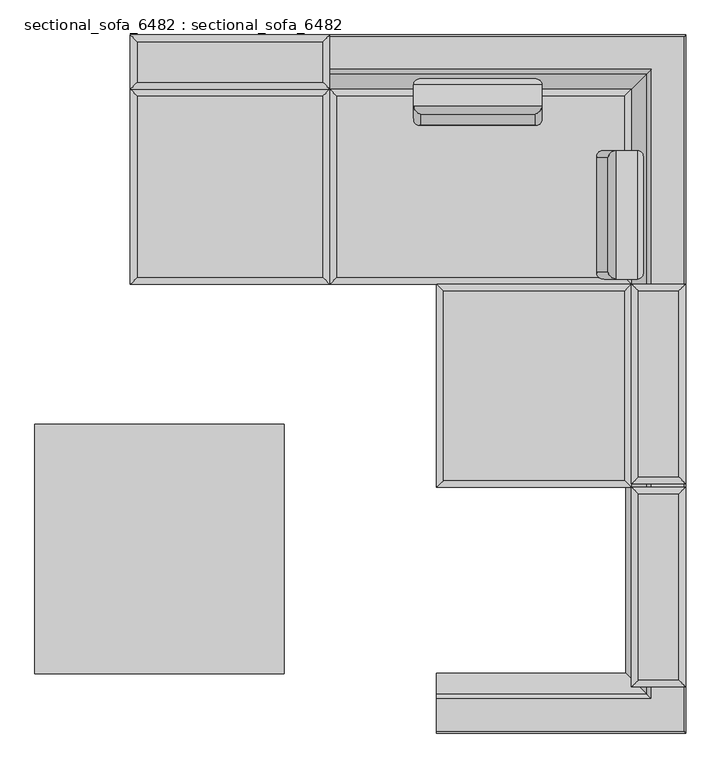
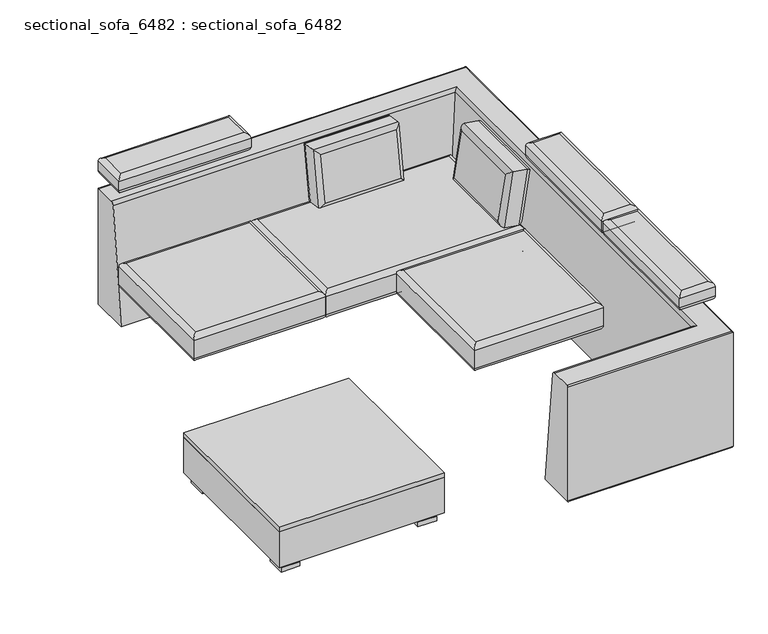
"""IFC4 building model written with IfcOpenShell, lengths in millimetres: furniture geometry, sectional_sofa_6482 : sectional_sofa_6482."""

from ifc_helpers import new_model, si_unit, frame, origin, place, context, project, spatial, polyline, circle_curve, ellipse_curve, outline, extrude, faceted_brep, source, transform, mapped, element, save
from ifc_brep_helpers import plane_surface, cylinder_surface, advanced_brep


def sectional_sofa_6482_sectional_sofa_6482_260eafee(model_context):
    return source(origin(), model_context, "Body", "SolidModel", [
        faceted_brep([(-926.5924005, -223.6520518, 25.4), (-926.5924005, -122.0520518, 25.4), (-1028.1924005, -122.0520518, 25.4), (-1028.1924005, -223.6520518, 25.4), (-951.9924005, -147.4520518, 25.4), (-951.9924005, -198.2520518, 25.4), (-1002.7924005, -198.2520518, 25.4), (-1002.7924005, -147.4520518, 25.4), (-926.5924005, -223.6520518, 0.0), (-1028.1924005, -223.6520518, 0.0), (-1028.1924005, -122.0520518, 0.0), (-926.5924005, -122.0520518, 0.0), (-951.9924005, -198.2520518, 50.8), (-951.9924005, -147.4520518, 50.8), (-1002.7924005, -147.4520518, 50.8), (-1002.7924005, -198.2520518, 50.8)], [[[0, 1, 2, 3], [4, 5, 6, 7]], [[8, 9, 10, 11]], [[1, 0, 8, 11]], [[2, 1, 11, 10]], [[3, 2, 10, 9]], [[0, 3, 9, 8]], [[12, 13, 14, 15]], [[13, 12, 5, 4]], [[14, 13, 4, 7]], [[15, 14, 7, 6]], [[12, 15, 6, 5]]]),
        faceted_brep([(-291.5924005, -223.6520518, 25.4), (-189.9924005, -223.6520518, 25.4), (-189.9924005, -122.0520518, 25.4), (-291.5924005, -122.0520518, 25.4), (-215.3924005, -198.2520518, 25.4), (-266.1924005, -198.2520518, 25.4), (-266.1924005, -147.4520518, 25.4), (-215.3924005, -147.4520518, 25.4), (-291.5924005, -223.6520518, 0.0), (-291.5924005, -122.0520518, 0.0), (-189.9924005, -122.0520518, 0.0), (-189.9924005, -223.6520518, 0.0), (-266.1924005, -198.2520518, 50.8), (-215.3924005, -198.2520518, 50.8), (-215.3924005, -147.4520518, 50.8), (-266.1924005, -147.4520518, 50.8)], [[[0, 1, 2, 3], [4, 5, 6, 7]], [[8, 9, 10, 11]], [[1, 0, 8, 11]], [[2, 1, 11, 10]], [[3, 2, 10, 9]], [[0, 3, 9, 8]], [[12, 13, 14, 15]], [[13, 12, 5, 4]], [[14, 13, 4, 7]], [[15, 14, 7, 6]], [[12, 15, 6, 5]]]),
        faceted_brep([(-291.5924005, -960.2520518, 25.4), (-189.9924005, -960.2520518, 25.4), (-189.9924005, -858.6520518, 25.4), (-291.5924005, -858.6520518, 25.4), (-215.3924005, -934.8520518, 25.4), (-266.1924005, -934.8520518, 25.4), (-266.1924005, -884.0520518, 25.4), (-215.3924005, -884.0520518, 25.4), (-291.5924005, -960.2520518, 0.0), (-291.5924005, -858.6520518, 0.0), (-189.9924005, -858.6520518, 0.0), (-189.9924005, -960.2520518, 0.0), (-266.1924005, -934.8520518, 50.8), (-215.3924005, -934.8520518, 50.8), (-215.3924005, -884.0520518, 50.8), (-266.1924005, -884.0520518, 50.8)], [[[0, 1, 2, 3], [4, 5, 6, 7]], [[8, 9, 10, 11]], [[1, 0, 8, 11]], [[2, 1, 11, 10]], [[3, 2, 10, 9]], [[0, 3, 9, 8]], [[12, 13, 14, 15]], [[13, 12, 5, 4]], [[14, 13, 4, 7]], [[15, 14, 7, 6]], [[12, 15, 6, 5]]]),
        faceted_brep([(-926.5924005, -960.2520518, 25.4), (-926.5924005, -858.6520518, 25.4), (-1028.1924005, -858.6520518, 25.4), (-1028.1924005, -960.2520518, 25.4), (-951.9924005, -884.0520518, 25.4), (-951.9924005, -934.8520518, 25.4), (-1002.7924005, -934.8520518, 25.4), (-1002.7924005, -884.0520518, 25.4), (-926.5924005, -960.2520518, 0.0), (-1028.1924005, -960.2520518, 0.0), (-1028.1924005, -858.6520518, 0.0), (-926.5924005, -858.6520518, 0.0), (-951.9924005, -934.8520518, 50.8), (-951.9924005, -884.0520518, 50.8), (-1002.7924005, -884.0520518, 50.8), (-1002.7924005, -934.8520518, 50.8)], [[[0, 1, 2, 3], [4, 5, 6, 7]], [[8, 9, 10, 11]], [[1, 0, 8, 11]], [[2, 1, 11, 10]], [[3, 2, 10, 9]], [[0, 3, 9, 8]], [[12, 13, 14, 15]], [[13, 12, 5, 4]], [[14, 13, 4, 7]], [[15, 14, 7, 6]], [[12, 15, 6, 5]]]),
        advanced_brep(
        [(972.5408994, 421.3757369, 422.7530414), (1047.802751, 421.3757369, 410.8327352), (1095.4839759, 421.3757369, 711.8801414), (1020.2221244, 421.3757369, 723.8004476), (1020.2221244, 878.5757369, 723.8004476), (1095.4839759, 878.5757369, 711.8801414), (1047.802751, 878.5757369, 410.8327352), (972.5408994, 878.5757369, 422.7530414), (1076.8634702, 853.1757369, 431.9465836), (1116.5978244, 853.1757369, 682.8194221), (1116.5978244, 446.7757369, 682.8194221), (1076.8634702, 446.7757369, 431.9465836), (991.1614051, 853.1757369, 702.6865992), (951.427051, 853.1757369, 451.8137607), (951.427051, 446.7757369, 451.8137607), (991.1614051, 446.7757369, 702.6865992)],
        [
            (0, 1),
            (1, 2),
            (2, 3),
            (3, 0),
            (4, 5),
            (5, 6),
            (6, 7),
            (7, 4),
            (0, 7),
            (6, 1),
            (8, 9),
            (9, 10),
            (10, 11),
            (11, 8),
            (2, 5),
            (4, 3),
            (12, 13),
            (13, 14),
            (14, 15),
            (15, 12),
            (7, 13, ellipse_curve(frame((976.5143348, 853.1757369, 447.8403253), z_axis=(0.11061587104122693, 0.7071067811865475, 0.698401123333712), x_axis=(-0.11061587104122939, 0.7071067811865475, -0.6984011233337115)), 35.9210245, 25.4)),
            (12, 4, ellipse_curve(frame((1016.248689, 853.1757369, 698.7131638), z_axis=(-0.11061587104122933, 0.7071067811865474, -0.6984011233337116), x_axis=(-0.11061587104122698, -0.7071067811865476, -0.6984011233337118)), 35.9210245, 25.4)),
            (8, 6, ellipse_curve(frame((1051.7761864, 853.1757369, 435.920019), z_axis=(0.11061587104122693, 0.7071067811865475, 0.698401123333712), x_axis=(-0.11061587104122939, 0.7071067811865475, -0.6984011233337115)), 35.9210245, 25.4)),
            (5, 9, ellipse_curve(frame((1091.5105405, 853.1757369, 686.7928575), z_axis=(-0.11061587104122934, 0.7071067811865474, -0.6984011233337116), x_axis=(-0.11061587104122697, -0.7071067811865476, -0.6984011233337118)), 35.9210245, 25.4)),
            (0, 14, ellipse_curve(frame((976.5143348, 446.7757369, 447.8403253), z_axis=(-0.11061587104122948, 0.7071067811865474, -0.6984011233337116), x_axis=(-0.11061587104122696, -0.7071067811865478, -0.6984011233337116)), 35.9210245, 25.4)),
            (11, 1, ellipse_curve(frame((1051.7761864, 446.7757369, 435.920019), z_axis=(-0.11061587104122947, 0.7071067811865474, -0.6984011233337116), x_axis=(-0.11061587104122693, -0.7071067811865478, -0.6984011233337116)), 35.9210245, 25.4)),
            (3, 15, ellipse_curve(frame((1016.248689, 446.7757369, 698.7131638), z_axis=(-0.11061587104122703, -0.7071067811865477, -0.6984011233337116), x_axis=(0.11061587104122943, -0.7071067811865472, 0.6984011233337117)), 35.9210245, 25.4)),
            (10, 2, ellipse_curve(frame((1091.5105405, 446.7757369, 686.7928575), z_axis=(-0.11061587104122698, -0.7071067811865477, -0.6984011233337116), x_axis=(0.11061587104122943, -0.7071067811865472, 0.6984011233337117)), 35.9210245, 25.4)),
        ],
        [
            plane_surface(frame((1059.7203148, 421.3757369, 248.4503234), z_axis=(0.0, -1.0, 0.0), x_axis=(0.0, 0.0, 1.0))),
            plane_surface(frame((1059.7203148, 878.5757369, 248.4503234), z_axis=(0.0, 1.0, 0.0), x_axis=(0.0, 0.0, 1.0))),
            plane_surface(frame((947.4536156, 421.3757369, 426.7264768), z_axis=(-0.15643446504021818, 0.0, -0.9876883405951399), x_axis=(0.0, 1.0, 0.0))),
            plane_surface(frame((1072.8900348, 421.3757369, 406.8592998), z_axis=(0.9876883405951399, 0.0, -0.15643446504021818), x_axis=(0.0, 1.0, 0.0))),
            plane_surface(frame((1120.5712598, 421.3757369, 707.906706), z_axis=(0.15643446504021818, 0.0, 0.9876883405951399), x_axis=(0.0, 1.0, 0.0))),
            plane_surface(frame((995.1348405, 421.3757369, 727.773883), z_axis=(-0.9876883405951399, 0.0, 0.15643446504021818), x_axis=(0.0, 1.0, 0.0))),
            cylinder_surface(frame((1020.2221244, 853.1757369, 723.8004476), z_axis=(-0.15643446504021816, 0.0, -0.9876883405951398), x_axis=(0.0, -1.0, 0.0)), 25.4),
            cylinder_surface(frame((1095.4839759, 853.1757369, 711.8801414), z_axis=(-0.15643446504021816, 0.0, -0.9876883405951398), x_axis=(0.0, -1.0, 0.0)), 25.4),
            cylinder_surface(frame((976.5143348, 878.5757369, 447.8403253), z_axis=(0.0, -1.0000000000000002, 0.0), x_axis=(0.15643446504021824, 0.0, 0.9876883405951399)), 25.4),
            cylinder_surface(frame((1051.7761864, 878.5757369, 435.920019), z_axis=(0.0, -1.0000000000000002, 0.0), x_axis=(0.15643446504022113, 0.0, 0.9876883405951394)), 25.4),
            cylinder_surface(frame((972.5408994, 446.7757369, 422.7530414), z_axis=(0.15643446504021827, 0.0, 0.9876883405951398), x_axis=(0.0, 1.0, 0.0)), 25.4),
            cylinder_surface(frame((1047.802751, 446.7757369, 410.8327352), z_axis=(0.15643446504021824, 0.0, 0.9876883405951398), x_axis=(0.0, 1.0, 0.0)), 25.4),
            cylinder_surface(frame((1016.248689, 421.3757369, 698.7131638), z_axis=(0.0, 1.0000000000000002, 0.0), x_axis=(-0.15643446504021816, 0.0, -0.9876883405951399)), 25.4),
            cylinder_surface(frame((1091.5105405, 421.3757369, 686.7928575), z_axis=(0.0, 1.0000000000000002, 0.0), x_axis=(-0.1564344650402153, 0.0, -0.9876883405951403)), 25.4),
        ],
        [
            (0, [[1, 2, 3, 4]]),
            (1, [[5, 6, 7, 8]]),
            (2, [[-1, 9, -7, 10]]),
            (3, [[11, 12, 13, 14]]),
            (4, [[-3, 15, -5, 16]]),
            (5, [[17, 18, 19, 20]]),
            (6, [[21, -17, 22, -8]]),
            (7, [[23, -6, 24, -11]]),
            (8, [[-21, -9, 25, -18]]),
            (9, [[-23, -14, 26, -10]]),
            (10, [[-25, -4, 27, -19]]),
            (11, [[-26, -13, 28, -2]]),
            (12, [[-22, -20, -27, -16]]),
            (13, [[-24, -15, -28, -12]]),
        ],
    ),
        advanced_brep(
        [(754.9501866, 990.6789418, 428.302718), (754.9501866, 1065.9407934, 416.3824117), (754.9501866, 1113.6220183, 717.429818), (754.9501866, 1038.3601668, 729.3501242), (297.7501866, 1038.3601668, 729.3501242), (297.7501866, 1113.6220183, 717.429818), (297.7501866, 1065.9407934, 416.3824117), (297.7501866, 990.6789418, 428.302718), (323.1501866, 1095.0015126, 437.4962602), (323.1501866, 1134.7358668, 688.3690987), (729.5501866, 1134.7358668, 688.3690987), (729.5501866, 1095.0015126, 437.4962602), (323.1501866, 1009.2994475, 708.2362758), (323.1501866, 969.5650934, 457.3634372), (729.5501866, 969.5650934, 457.3634372), (729.5501866, 1009.2994475, 708.2362758)],
        [
            (0, 1),
            (1, 2),
            (2, 3),
            (3, 0),
            (4, 5),
            (5, 6),
            (6, 7),
            (7, 4),
            (0, 7),
            (6, 1),
            (8, 9),
            (9, 10),
            (10, 11),
            (11, 8),
            (2, 5),
            (4, 3),
            (12, 13),
            (13, 14),
            (14, 15),
            (15, 12),
            (7, 13, ellipse_curve(frame((323.1501866, 994.6523772, 453.3900018), z_axis=(-0.7071067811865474, 0.1106158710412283, 0.6984011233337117), x_axis=(-0.7071067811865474, -0.11061587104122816, -0.6984011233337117)), 35.9210245, 25.4)),
            (12, 4, ellipse_curve(frame((323.1501866, 1034.3867314, 704.2628403), z_axis=(-0.7071067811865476, -0.11061587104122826, -0.6984011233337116), x_axis=(0.7071067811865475, -0.11061587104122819, -0.6984011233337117)), 35.9210245, 25.4)),
            (8, 6, ellipse_curve(frame((323.1501866, 1069.9142288, 441.4696956), z_axis=(-0.7071067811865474, 0.11061587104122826, 0.6984011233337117), x_axis=(-0.7071067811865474, -0.11061587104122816, -0.6984011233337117)), 35.9210245, 25.4)),
            (5, 9, ellipse_curve(frame((323.1501866, 1109.6485829, 692.3425341), z_axis=(-0.7071067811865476, -0.11061587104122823, -0.6984011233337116), x_axis=(0.7071067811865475, -0.11061587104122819, -0.6984011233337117)), 35.9210245, 25.4)),
            (0, 14, ellipse_curve(frame((729.5501866, 994.6523772, 453.3900018), z_axis=(-0.7071067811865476, -0.11061587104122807, -0.6984011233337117), x_axis=(0.7071067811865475, -0.11061587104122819, -0.6984011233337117)), 35.9210245, 25.4)),
            (11, 1, ellipse_curve(frame((729.5501866, 1069.9142288, 441.4696956), z_axis=(-0.7071067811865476, -0.11061587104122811, -0.6984011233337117), x_axis=(0.7071067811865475, -0.11061587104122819, -0.6984011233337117)), 35.9210245, 25.4)),
            (3, 15, ellipse_curve(frame((729.5501866, 1034.3867314, 704.2628403), z_axis=(0.7071067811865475, -0.1106158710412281, -0.6984011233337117), x_axis=(0.7071067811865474, 0.11061587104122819, 0.6984011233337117)), 35.9210245, 25.4)),
            (10, 2, ellipse_curve(frame((729.5501866, 1109.6485829, 692.3425341), z_axis=(0.7071067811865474, -0.11061587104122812, -0.6984011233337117), x_axis=(0.7071067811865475, 0.1106158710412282, 0.6984011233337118)), 35.9210245, 25.4)),
        ],
        [
            plane_surface(frame((754.9501866, 1077.8583572, 254.0), z_axis=(1.0, 0.0, 0.0), x_axis=(0.0, 0.0, 1.0))),
            plane_surface(frame((297.7501866, 1077.8583572, 254.0), z_axis=(-1.0, 0.0, 0.0), x_axis=(0.0, 0.0, 1.0))),
            plane_surface(frame((754.9501866, 965.591658, 432.2761534), z_axis=(0.0, -0.15643446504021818, -0.9876883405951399), x_axis=(-1.0, 0.0, 0.0))),
            plane_surface(frame((754.9501866, 1091.0280772, 412.4089763), z_axis=(0.0, 0.9876883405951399, -0.15643446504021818), x_axis=(-1.0, 0.0, 0.0))),
            plane_surface(frame((754.9501866, 1138.7093022, 713.4563825), z_axis=(0.0, 0.15643446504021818, 0.9876883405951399), x_axis=(-1.0, 0.0, 0.0))),
            plane_surface(frame((754.9501866, 1013.2728829, 733.3235596), z_axis=(0.0, -0.9876883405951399, 0.15643446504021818), x_axis=(-1.0, 0.0, 0.0))),
            cylinder_surface(frame((323.1501866, 1038.3601668, 729.3501242), z_axis=(0.0, -0.15643446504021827, -0.9876883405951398), x_axis=(1.0, 0.0, 0.0)), 25.4),
            cylinder_surface(frame((323.1501866, 1113.6220183, 717.429818), z_axis=(0.0, -0.15643446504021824, -0.9876883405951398), x_axis=(1.0, 0.0, 0.0)), 25.4),
            cylinder_surface(frame((297.7501866, 994.6523772, 453.3900018), z_axis=(1.0, 0.0, 0.0), x_axis=(0.0, 0.15643446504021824, 0.9876883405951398)), 25.4),
            cylinder_surface(frame((297.7501866, 1069.9142288, 441.4696956), z_axis=(1.0, 0.0, 0.0), x_axis=(0.0, 0.15643446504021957, 0.9876883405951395)), 25.4),
            cylinder_surface(frame((729.5501866, 990.6789418, 428.302718), z_axis=(0.0, 0.15643446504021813, 0.9876883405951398), x_axis=(-1.0, 0.0, 0.0)), 25.4),
            cylinder_surface(frame((729.5501866, 1065.9407934, 416.3824117), z_axis=(0.0, 0.15643446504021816, 0.9876883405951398), x_axis=(-1.0, 0.0, 0.0)), 25.4),
            cylinder_surface(frame((754.9501866, 1034.3867314, 704.2628403), z_axis=(-1.0, 0.0, 0.0), x_axis=(0.0, -0.15643446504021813, -0.9876883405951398)), 25.4),
            cylinder_surface(frame((754.9501866, 1109.6485829, 692.3425341), z_axis=(-1.0, 0.0, 0.0), x_axis=(0.0, -0.1564344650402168, -0.98768834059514)), 25.4),
        ],
        [
            (0, [[1, 2, 3, 4]]),
            (1, [[5, 6, 7, 8]]),
            (2, [[-1, 9, -7, 10]]),
            (3, [[11, 12, 13, 14]]),
            (4, [[-3, 15, -5, 16]]),
            (5, [[17, 18, 19, 20]]),
            (6, [[21, -17, 22, -8]]),
            (7, [[23, -6, 24, -11]]),
            (8, [[-21, -9, 25, -18]]),
            (9, [[-23, -14, 26, -10]]),
            (10, [[-25, -4, 27, -19]]),
            (11, [[-26, -13, 28, -2]]),
            (12, [[-22, -20, -27, -16]]),
            (13, [[-24, -15, -28, -12]]),
        ],
    ),
        advanced_brep(
        [(-712.932438, 1291.6931081, 704.85), (-712.932438, 1291.6931081, 57.15), (-712.932438, 1285.3431081, 50.8), (-712.932438, 1078.6460027, 50.8), (-712.932438, 1150.9219827, 695.9470238), (-712.932438, 1169.5897386, 711.2), (-712.932438, 1285.3431081, 711.2), (1268.267562, 1291.6931081, 704.85), (1268.267562, 1291.6931081, 57.15), (1261.917562, 1285.3431081, 50.8), (1261.917562, -1191.1568919, 50.8), (379.267562, -1191.1568919, 50.8), (379.267562, -984.4597865, 50.8), (1055.2204567, -984.4597865, 50.8), (1055.2204567, 1078.6460027, 50.8), (1127.4964367, 1150.9219827, 695.9470238), (1146.1641926, 1169.5897386, 711.2), (1146.1641926, -1075.4035225, 711.2), (379.267562, -1075.4035225, 711.2), (379.267562, -1191.1568919, 711.2), (1261.917562, -1191.1568919, 711.2), (1261.917562, 1285.3431081, 711.2), (1268.267562, -1197.5068919, 704.85), (1268.267562, -1197.5068919, 57.15), (1127.4964367, -1056.7357665, 695.9470238), (379.267562, -1197.5068919, 57.15), (379.267562, -1197.5068919, 704.85), (379.267562, -1056.7357665, 695.9470238)],
        [
            (0, 1),
            (1, 2, circle_curve(frame((-712.932438, 1285.3431081, 57.15), z_axis=(-1.0, 0.0, 0.0), x_axis=(0.0, -1.0, 0.0)), 6.35)),
            (2, 3),
            (3, 4, circle_curve(frame((-712.932438, 4725.645818, -31.1522279), z_axis=(-1.0, 0.0, 0.0), x_axis=(0.0, -1.0, 0.0)), 3647.9204789)),
            (4, 5, circle_curve(frame((-712.932438, 1169.5897386, 692.15), z_axis=(-1.0, 0.0, 0.0), x_axis=(0.0, -1.0, 0.0)), 19.05)),
            (5, 6),
            (6, 0, circle_curve(frame((-712.932438, 1285.3431081, 704.85), z_axis=(-1.0, 0.0, 0.0), x_axis=(0.0, -1.0, 0.0)), 6.35)),
            (0, 7),
            (7, 8),
            (8, 1),
            (8, 9, ellipse_curve(frame((1261.917562, 1285.3431081, 57.15), z_axis=(-0.7071067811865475, 0.7071067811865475, 0.0), x_axis=(-0.7071067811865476, -0.7071067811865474, 0.0)), 8.9802561, 6.35)),
            (9, 2),
            (9, 10),
            (10, 11),
            (11, 12),
            (12, 13),
            (13, 14),
            (14, 3),
            (14, 15, ellipse_curve(frame((4702.2202719, 4725.645818, -31.1522279), z_axis=(-0.7071067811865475, 0.7071067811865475, 0.0), x_axis=(-0.7071067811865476, -0.7071067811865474, 0.0)), 5158.9386157, 3647.9204789)),
            (15, 4),
            (15, 16, ellipse_curve(frame((1146.1641926, 1169.5897386, 692.15), z_axis=(-0.7071067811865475, 0.7071067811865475, 0.0), x_axis=(-0.7071067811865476, -0.7071067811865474, 0.0)), 26.9407684, 19.05)),
            (16, 5),
            (16, 17),
            (17, 18),
            (18, 19),
            (19, 20),
            (20, 21),
            (21, 6),
            (21, 7, ellipse_curve(frame((1261.917562, 1285.3431081, 704.85), z_axis=(-0.7071067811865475, 0.7071067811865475, 0.0), x_axis=(-0.7071067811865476, -0.7071067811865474, 0.0)), 8.9802561, 6.35)),
            (7, 22),
            (22, 23),
            (23, 8),
            (23, 10, ellipse_curve(frame((1261.917562, -1191.1568919, 57.15), z_axis=(0.7071067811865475, 0.7071067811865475, 0.0), x_axis=(-0.7071067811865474, 0.7071067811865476, 0.0)), 8.9802561, 6.35)),
            (13, 24, ellipse_curve(frame((4702.2202719, -4631.4596018, -31.1522279), z_axis=(0.7071067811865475, 0.7071067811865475, 0.0), x_axis=(-0.7071067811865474, 0.7071067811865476, 0.0)), 5158.9386157, 3647.9204789)),
            (24, 15),
            (24, 17, ellipse_curve(frame((1146.1641926, -1075.4035225, 692.15), z_axis=(0.7071067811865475, 0.7071067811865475, 0.0), x_axis=(-0.7071067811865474, 0.7071067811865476, 0.0)), 26.9407684, 19.05)),
            (20, 22, ellipse_curve(frame((1261.917562, -1191.1568919, 704.85), z_axis=(0.7071067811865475, 0.7071067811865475, 0.0), x_axis=(-0.7071067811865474, 0.7071067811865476, 0.0)), 8.9802561, 6.35)),
            (11, 25, circle_curve(frame((379.267562, -1191.1568919, 57.15), z_axis=(-1.0, 0.0, 0.0), x_axis=(0.0, 1.0, 0.0)), 6.35)),
            (25, 26),
            (26, 19, circle_curve(frame((379.267562, -1191.1568919, 704.85), z_axis=(-1.0, 0.0, 0.0), x_axis=(0.0, 1.0, 0.0)), 6.35)),
            (18, 27, circle_curve(frame((379.267562, -1075.4035225, 692.15), z_axis=(-1.0, 0.0, 0.0), x_axis=(0.0, 1.0, 0.0)), 19.05)),
            (27, 12, circle_curve(frame((379.267562, -4631.4596018, -31.1522279), z_axis=(-1.0, 0.0, 0.0), x_axis=(0.0, 1.0, 0.0)), 3647.9204789)),
            (22, 26),
            (25, 23),
            (27, 24),
        ],
        [
            plane_surface(frame((-712.932438, 1291.6931081, 50.8), z_axis=(-1.0, 0.0, 0.0), x_axis=(0.0, 0.0, -1.0))),
            plane_surface(frame((-712.932438, 1291.6931081, 704.85), z_axis=(0.0, 1.0, 0.0), x_axis=(1.0, 0.0, 0.0))),
            cylinder_surface(frame((-712.932438, 1285.3431081, 57.15), z_axis=(-1.0, 0.0, 0.0), x_axis=(0.0, -1.0, 0.0)), 6.35),
            plane_surface(frame((-712.932438, 1285.3431081, 50.8), z_axis=(0.0, 0.0, -1.0), x_axis=(1.0, 0.0, 0.0))),
            cylinder_surface(frame((-712.932438, 4725.645818, -31.1522279), z_axis=(-1.0, 0.0, 0.0), x_axis=(0.0, -1.0, 0.0)), 3647.9204789),
            cylinder_surface(frame((-712.932438, 1169.5897386, 692.15), z_axis=(-1.0, 0.0, 0.0), x_axis=(0.0, -1.0, 0.0)), 19.05),
            plane_surface(frame((-712.932438, 1169.5897386, 711.2), z_axis=(0.0, 0.0, 1.0), x_axis=(1.0, 0.0, 0.0))),
            cylinder_surface(frame((-712.932438, 1285.3431081, 704.85), z_axis=(-1.0, 0.0, 0.0), x_axis=(0.0, -1.0, 0.0)), 6.35),
            plane_surface(frame((1268.267562, 1291.6931081, 704.85), z_axis=(1.0, 0.0, 0.0), x_axis=(0.0, -1.0, 0.0))),
            cylinder_surface(frame((1261.917562, 1291.6931081, 57.15), z_axis=(0.0, 1.0, 0.0), x_axis=(-1.0, 0.0, 0.0)), 6.35),
            cylinder_surface(frame((4702.2202719, 1291.6931081, -31.1522279), z_axis=(0.0, 1.0, 0.0), x_axis=(-1.0, 0.0, 0.0)), 3647.9204789),
            cylinder_surface(frame((1146.1641926, 1291.6931081, 692.15), z_axis=(0.0, 1.0, 0.0), x_axis=(-1.0, 0.0, 0.0)), 19.05),
            cylinder_surface(frame((1261.917562, 1291.6931081, 704.85), z_axis=(0.0, 1.0, 0.0), x_axis=(-1.0, 0.0, 0.0)), 6.35),
            plane_surface(frame((379.267562, -1197.5068919, 50.8), z_axis=(-1.0, 0.0, 0.0), x_axis=(0.0, 0.0, -1.0))),
            plane_surface(frame((1268.267562, -1197.5068919, 704.85), z_axis=(0.0, -1.0, 0.0), x_axis=(-1.0, 0.0, 0.0))),
            cylinder_surface(frame((1268.267562, -1191.1568919, 57.15), z_axis=(1.0, 0.0, 0.0), x_axis=(0.0, 1.0, 0.0)), 6.35),
            cylinder_surface(frame((1268.267562, -4631.4596018, -31.1522279), z_axis=(1.0, 0.0, 0.0), x_axis=(0.0, 1.0, 0.0)), 3647.9204789),
            cylinder_surface(frame((1268.267562, -1075.4035225, 692.15), z_axis=(1.0, 0.0, 0.0), x_axis=(0.0, 1.0, 0.0)), 19.05),
            cylinder_surface(frame((1268.267562, -1191.1568919, 704.85), z_axis=(1.0, 0.0, 0.0), x_axis=(0.0, 1.0, 0.0)), 6.35),
        ],
        [
            (0, [[1, 2, 3, 4, 5, 6, 7]]),
            (1, [[-1, 8, 9, 10]]),
            (2, [[-2, -10, 11, 12]]),
            (3, [[-3, -12, 13, 14, 15, 16, 17, 18]]),
            (4, [[-4, -18, 19, 20]]),
            (5, [[-5, -20, 21, 22]]),
            (6, [[-6, -22, 23, 24, 25, 26, 27, 28]]),
            (7, [[-7, -28, 29, -8]]),
            (8, [[-9, 30, 31, 32]]),
            (9, [[-11, -32, 33, -13]]),
            (10, [[-17, 34, 35, -19]]),
            (11, [[-21, -35, 36, -23]]),
            (12, [[-27, 37, -30, -29]]),
            (13, [[-15, 38, 39, 40, -25, 41, 42]]),
            (14, [[-31, 43, -39, 44]]),
            (15, [[-14, -33, -44, -38]]),
            (16, [[-16, -42, 45, -34]]),
            (17, [[-24, -36, -45, -41]]),
            (18, [[-26, -40, -43, -37]]),
        ],
    ),
        extrude(outline(polyline([(-164.5924005, -96.6520518), (-164.5924005, -985.6520518), (-1053.5924005, -985.6520518), (-1053.5924005, -96.6520518), (-164.5924005, -96.6520518)])), frame((0.0, 0.0, 254.0), z_axis=(0.0, 0.0, 1.0), x_axis=(1.0, 0.0, 0.0)), (0.0, 0.0, 1.0), 25.4),
        extrude(outline(polyline([(-164.5924005, -96.6520518), (-164.5924005, -985.6520518), (-1053.5924005, -985.6520518), (-1053.5924005, -96.6520518), (-164.5924005, -96.6520518)])), frame((0.0, 0.0, 50.8), z_axis=(0.0, 0.0, 1.0), x_axis=(1.0, 0.0, 0.0)), (0.0, 0.0, 1.0), 203.2),
        advanced_brep(
        [(404.667562, 377.2931081, 406.4), (404.667562, -295.8068919, 406.4), (1049.4594497, -295.8068919, 406.4), (1049.4594497, 377.2931081, 406.4), (404.667562, -295.8068919, 254.0), (404.667562, 377.2931081, 254.0), (1049.4594497, 377.2931081, 254.0), (1049.4594497, -295.8068919, 254.0), (1074.8594497, 402.6931081, 279.4), (1074.8594497, 402.6931081, 381.0), (1074.8594497, -321.2068919, 381.0), (1074.8594497, -321.2068919, 279.4), (379.267562, 402.6931081, 279.4), (379.267562, 402.6931081, 381.0), (379.267562, -321.2068919, 279.4), (379.267562, -321.2068919, 381.0)],
        [
            (0, 1),
            (1, 2),
            (2, 3),
            (3, 0),
            (4, 5),
            (5, 6),
            (6, 7),
            (7, 4),
            (8, 9),
            (9, 10),
            (10, 11),
            (11, 8),
            (8, 12),
            (12, 13),
            (13, 9),
            (12, 14),
            (14, 15),
            (15, 13),
            (10, 15),
            (14, 11),
            (15, 1, ellipse_curve(frame((404.667562, -295.8068919, 381.0), z_axis=(-0.7071067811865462, 0.7071067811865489, 0.0), x_axis=(-0.707106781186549, -0.707106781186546, 0.0)), 35.9210245, 25.4)),
            (0, 13, ellipse_curve(frame((404.667562, 377.2931081, 381.0), z_axis=(-0.7071067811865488, -0.7071067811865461, 0.0), x_axis=(0.707106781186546, -0.707106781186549, 0.0)), 35.9210245, 25.4)),
            (4, 14, ellipse_curve(frame((404.667562, -295.8068919, 279.4), z_axis=(-0.7071067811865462, 0.7071067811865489, 0.0), x_axis=(-0.707106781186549, -0.707106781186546, 0.0)), 35.9210245, 25.4)),
            (12, 5, ellipse_curve(frame((404.667562, 377.2931081, 279.4), z_axis=(-0.7071067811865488, -0.7071067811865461, 0.0), x_axis=(0.707106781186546, -0.707106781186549, 0.0)), 35.9210245, 25.4)),
            (10, 2, ellipse_curve(frame((1049.4594497, -295.8068919, 381.0), z_axis=(-0.7071067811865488, -0.7071067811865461, 0.0), x_axis=(0.7071067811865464, -0.7071067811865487, 0.0)), 35.9210245, 25.4)),
            (7, 11, ellipse_curve(frame((1049.4594497, -295.8068919, 279.4), z_axis=(-0.7071067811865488, -0.7071067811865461, 0.0), x_axis=(0.7071067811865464, -0.7071067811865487, 0.0)), 35.9210245, 25.4)),
            (9, 3, ellipse_curve(frame((1049.4594497, 377.2931081, 381.0), z_axis=(0.7071067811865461, -0.7071067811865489, 0.0), x_axis=(0.7071067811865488, 0.7071067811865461, 0.0)), 35.9210245, 25.4)),
            (6, 8, ellipse_curve(frame((1049.4594497, 377.2931081, 279.4), z_axis=(0.7071067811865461, -0.7071067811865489, 0.0), x_axis=(0.7071067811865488, 0.7071067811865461, 0.0)), 35.9210245, 25.4)),
        ],
        [
            plane_surface(frame((1074.8594497, 402.6931081, 406.4), z_axis=(0.0, 0.0, 1.0), x_axis=(0.0, 1.0, 0.0))),
            plane_surface(frame((1074.8594497, 402.6931081, 254.0), z_axis=(0.0, 0.0, -1.0), x_axis=(0.0, -1.0, 0.0))),
            plane_surface(frame((1074.8594497, -321.2068919, 406.4), z_axis=(1.0, 0.0, 0.0), x_axis=(0.0, 0.0, -1.0))),
            plane_surface(frame((1074.8594497, 402.6931081, 406.4), z_axis=(0.0, 1.0, 0.0), x_axis=(0.0, 0.0, -1.0))),
            plane_surface(frame((379.267562, 402.6931081, 406.4), z_axis=(-1.0, 0.0, 0.0), x_axis=(0.0, 0.0, -1.0))),
            plane_surface(frame((379.267562, -321.2068919, 406.4), z_axis=(0.0, -1.0, 0.0), x_axis=(0.0, 0.0, -1.0))),
            cylinder_surface(frame((404.667562, 402.6931081, 381.0), z_axis=(0.0, -1.0, 0.0), x_axis=(1.0, 0.0, 0.0)), 25.4),
            cylinder_surface(frame((404.667562, 402.6931081, 279.4), z_axis=(0.0, -1.0, 0.0), x_axis=(1.0, 0.0, 0.0)), 25.4),
            cylinder_surface(frame((379.267562, -295.8068919, 381.0), z_axis=(1.0, 0.0, 0.0), x_axis=(0.0, 1.0, 0.0)), 25.4),
            cylinder_surface(frame((379.267562, -295.8068919, 279.4), z_axis=(1.0, 0.0, 0.0), x_axis=(0.0, 1.0, 0.0)), 25.4),
            cylinder_surface(frame((1049.4594497, -321.2068919, 381.0), z_axis=(0.0, 1.0, 0.0), x_axis=(-1.0, 0.0, 0.0)), 25.4),
            cylinder_surface(frame((1049.4594497, -321.2068919, 279.4), z_axis=(0.0, 1.0, 0.0), x_axis=(-1.0, 0.0, 0.0)), 25.4),
            cylinder_surface(frame((1074.8594497, 377.2931081, 381.0), z_axis=(-1.0, 0.0, 0.0), x_axis=(0.0, -1.0, 0.0)), 25.4),
            cylinder_surface(frame((1074.8594497, 377.2931081, 279.4), z_axis=(-1.0, 0.0, 0.0), x_axis=(0.0, -1.0, 0.0)), 25.4),
        ],
        [
            (0, [[1, 2, 3, 4]]),
            (1, [[5, 6, 7, 8]]),
            (2, [[9, 10, 11, 12]]),
            (3, [[-9, 13, 14, 15]]),
            (4, [[-14, 16, 17, 18]]),
            (5, [[-11, 19, -17, 20]]),
            (6, [[21, -1, 22, -18]]),
            (7, [[23, -16, 24, -5]]),
            (8, [[-21, -19, 25, -2]]),
            (9, [[-23, -8, 26, -20]]),
            (10, [[-25, -10, 27, -3]]),
            (11, [[-26, -7, 28, -12]]),
            (12, [[-22, -4, -27, -15]]),
            (13, [[-24, -13, -28, -6]]),
        ],
    ),
        advanced_brep(
        [(23.667562, 428.0931081, 406.4), (1049.4594497, 428.0931081, 406.4), (1049.4594497, 1072.8849958, 406.4), (23.667562, 1072.8849958, 406.4), (1049.4594497, 428.0931081, 254.0), (23.667562, 428.0931081, 254.0), (23.667562, 1072.8849958, 254.0), (1049.4594497, 1072.8849958, 254.0), (-1.732438, 1098.2849958, 279.4), (-1.732438, 1098.2849958, 381.0), (1074.8594497, 1098.2849958, 381.0), (1074.8594497, 1098.2849958, 279.4), (-1.732438, 402.6931081, 279.4), (-1.732438, 402.6931081, 381.0), (379.267562, 402.6931081, 279.4), (1074.8594497, 402.6931081, 279.4), (1074.8594497, 402.6931081, 381.0), (379.267562, 402.6931081, 381.0)],
        [
            (0, 1),
            (1, 2),
            (2, 3),
            (3, 0),
            (4, 5),
            (5, 6),
            (6, 7),
            (7, 4),
            (8, 9),
            (9, 10),
            (10, 11),
            (11, 8),
            (8, 12),
            (12, 13),
            (13, 9),
            (12, 14),
            (14, 15),
            (15, 16),
            (16, 17),
            (17, 13),
            (10, 16),
            (15, 11),
            (16, 1, ellipse_curve(frame((1049.4594497, 428.0931081, 381.0), z_axis=(-0.7071067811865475, -0.7071067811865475, 0.0), x_axis=(0.7071067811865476, -0.7071067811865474, 0.0)), 35.9210245, 25.4)),
            (0, 13, ellipse_curve(frame((23.667562, 428.0931081, 381.0), z_axis=(0.7071067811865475, -0.7071067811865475, 0.0), x_axis=(0.7071067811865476, 0.7071067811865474, 0.0)), 35.9210245, 25.4)),
            (4, 15, ellipse_curve(frame((1049.4594497, 428.0931081, 279.4), z_axis=(-0.7071067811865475, -0.7071067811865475, 0.0), x_axis=(0.7071067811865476, -0.7071067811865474, 0.0)), 35.9210245, 25.4)),
            (12, 5, ellipse_curve(frame((23.667562, 428.0931081, 279.4), z_axis=(0.7071067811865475, -0.7071067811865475, 0.0), x_axis=(0.7071067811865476, 0.7071067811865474, 0.0)), 35.9210245, 25.4)),
            (10, 2, ellipse_curve(frame((1049.4594497, 1072.8849958, 381.0), z_axis=(0.7071067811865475, -0.7071067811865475, 0.0), x_axis=(0.7071067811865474, 0.7071067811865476, 0.0)), 35.9210245, 25.4)),
            (7, 11, ellipse_curve(frame((1049.4594497, 1072.8849958, 279.4), z_axis=(0.7071067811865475, -0.7071067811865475, 0.0), x_axis=(0.7071067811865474, 0.7071067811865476, 0.0)), 35.9210245, 25.4)),
            (9, 3, ellipse_curve(frame((23.667562, 1072.8849958, 381.0), z_axis=(0.7071067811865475, 0.7071067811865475, 0.0), x_axis=(-0.7071067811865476, 0.7071067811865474, 0.0)), 35.9210245, 25.4)),
            (6, 8, ellipse_curve(frame((23.667562, 1072.8849958, 279.4), z_axis=(0.7071067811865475, 0.7071067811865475, 0.0), x_axis=(-0.7071067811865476, 0.7071067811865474, 0.0)), 35.9210245, 25.4)),
        ],
        [
            plane_surface(frame((-1.732438, 1098.2849958, 406.4), z_axis=(0.0, 0.0, 1.0), x_axis=(-1.0, 0.0, 0.0))),
            plane_surface(frame((-1.732438, 1098.2849958, 254.0), z_axis=(0.0, 0.0, -1.0), x_axis=(1.0, 0.0, 0.0))),
            plane_surface(frame((1074.8594497, 1098.2849958, 406.4), z_axis=(0.0, 1.0, 0.0), x_axis=(0.0, 0.0, -1.0))),
            plane_surface(frame((-1.732438, 1098.2849958, 406.4), z_axis=(-1.0, 0.0, 0.0), x_axis=(0.0, 0.0, -1.0))),
            plane_surface(frame((-1.732438, 402.6931081, 406.4), z_axis=(0.0, -1.0, 0.0), x_axis=(0.0, 0.0, -1.0))),
            plane_surface(frame((1074.8594497, 402.6931081, 406.4), z_axis=(1.0, 0.0, 0.0), x_axis=(0.0, 0.0, -1.0))),
            cylinder_surface(frame((-1.732438, 428.0931081, 381.0), z_axis=(1.0, 0.0, 0.0), x_axis=(0.0, 1.0, 0.0)), 25.4),
            cylinder_surface(frame((-1.732438, 428.0931081, 279.4), z_axis=(1.0, 0.0, 0.0), x_axis=(0.0, 1.0, 0.0)), 25.4),
            cylinder_surface(frame((1049.4594497, 402.6931081, 381.0), z_axis=(0.0, 1.0, 0.0), x_axis=(-1.0, 0.0, 0.0)), 25.4),
            cylinder_surface(frame((1049.4594497, 402.6931081, 279.4), z_axis=(0.0, 1.0, 0.0), x_axis=(-1.0, 0.0, 0.0)), 25.4),
            cylinder_surface(frame((1074.8594497, 1072.8849958, 381.0), z_axis=(-1.0, 0.0, 0.0), x_axis=(0.0, -1.0, 0.0)), 25.4),
            cylinder_surface(frame((1074.8594497, 1072.8849958, 279.4), z_axis=(-1.0, 0.0, 0.0), x_axis=(0.0, -1.0, 0.0)), 25.4),
            cylinder_surface(frame((23.667562, 1098.2849958, 381.0), z_axis=(0.0, -1.0, 0.0), x_axis=(1.0, 0.0, 0.0)), 25.4),
            cylinder_surface(frame((23.667562, 1098.2849958, 279.4), z_axis=(0.0, -1.0, 0.0), x_axis=(1.0, 0.0, 0.0)), 25.4),
        ],
        [
            (0, [[1, 2, 3, 4]]),
            (1, [[5, 6, 7, 8]]),
            (2, [[9, 10, 11, 12]]),
            (3, [[-9, 13, 14, 15]]),
            (4, [[-14, 16, 17, 18, 19, 20]]),
            (5, [[-11, 21, -18, 22]]),
            (6, [[23, -1, 24, -20, -19]]),
            (7, [[25, -17, -16, 26, -5]]),
            (8, [[-23, -21, 27, -2]]),
            (9, [[-25, -8, 28, -22]]),
            (10, [[-27, -10, 29, -3]]),
            (11, [[-28, -7, 30, -12]]),
            (12, [[-24, -4, -29, -15]]),
            (13, [[-26, -13, -30, -6]]),
        ],
    ),
        advanced_brep(
        [(-687.532438, 428.0931081, 406.4), (-27.132438, 428.0931081, 406.4), (-27.132438, 1072.8849958, 406.4), (-687.532438, 1072.8849958, 406.4), (-27.132438, 428.0931081, 254.0), (-687.532438, 428.0931081, 254.0), (-687.532438, 1072.8849958, 254.0), (-27.132438, 1072.8849958, 254.0), (-1.732438, 1098.2849958, 381.0), (-1.732438, 1098.2849958, 279.4), (-712.932438, 1098.2849958, 279.4), (-712.932438, 1098.2849958, 381.0), (-712.932438, 402.6931081, 279.4), (-712.932438, 402.6931081, 381.0), (-1.732438, 402.6931081, 279.4), (-1.732438, 402.6931081, 381.0)],
        [
            (0, 1),
            (1, 2),
            (2, 3),
            (3, 0),
            (4, 5),
            (5, 6),
            (6, 7),
            (7, 4),
            (8, 9),
            (9, 10),
            (10, 11),
            (11, 8),
            (10, 12),
            (12, 13),
            (13, 11),
            (12, 14),
            (14, 15),
            (15, 13),
            (8, 15),
            (14, 9),
            (15, 1, ellipse_curve(frame((-27.132438, 428.0931081, 381.0), z_axis=(-0.7071067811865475, -0.7071067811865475, 0.0), x_axis=(0.7071067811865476, -0.7071067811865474, 0.0)), 35.9210245, 25.4)),
            (0, 13, ellipse_curve(frame((-687.532438, 428.0931081, 381.0), z_axis=(0.7071067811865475, -0.7071067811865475, 0.0), x_axis=(0.7071067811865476, 0.7071067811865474, 0.0)), 35.9210245, 25.4)),
            (4, 14, ellipse_curve(frame((-27.132438, 428.0931081, 279.4), z_axis=(-0.7071067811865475, -0.7071067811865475, 0.0), x_axis=(0.7071067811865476, -0.7071067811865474, 0.0)), 35.9210245, 25.4)),
            (12, 5, ellipse_curve(frame((-687.532438, 428.0931081, 279.4), z_axis=(0.7071067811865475, -0.7071067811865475, 0.0), x_axis=(0.7071067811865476, 0.7071067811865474, 0.0)), 35.9210245, 25.4)),
            (8, 2, ellipse_curve(frame((-27.132438, 1072.8849958, 381.0), z_axis=(0.7071067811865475, -0.7071067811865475, 0.0), x_axis=(0.7071067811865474, 0.7071067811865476, 0.0)), 35.9210245, 25.4)),
            (7, 9, ellipse_curve(frame((-27.132438, 1072.8849958, 279.4), z_axis=(0.7071067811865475, -0.7071067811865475, 0.0), x_axis=(0.7071067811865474, 0.7071067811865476, 0.0)), 35.9210245, 25.4)),
            (11, 3, ellipse_curve(frame((-687.532438, 1072.8849958, 381.0), z_axis=(0.7071067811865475, 0.7071067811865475, 0.0), x_axis=(-0.7071067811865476, 0.7071067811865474, 0.0)), 35.9210245, 25.4)),
            (6, 10, ellipse_curve(frame((-687.532438, 1072.8849958, 279.4), z_axis=(0.7071067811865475, 0.7071067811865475, 0.0), x_axis=(-0.7071067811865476, 0.7071067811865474, 0.0)), 35.9210245, 25.4)),
        ],
        [
            plane_surface(frame((-712.932438, 1098.2849958, 406.4), z_axis=(0.0, 0.0, 1.0), x_axis=(-1.0, 0.0, 0.0))),
            plane_surface(frame((-712.932438, 1098.2849958, 254.0), z_axis=(0.0, 0.0, -1.0), x_axis=(1.0, 0.0, 0.0))),
            plane_surface(frame((-1.732438, 1098.2849958, 406.4), z_axis=(0.0, 1.0, 0.0), x_axis=(0.0, 0.0, -1.0))),
            plane_surface(frame((-712.932438, 1098.2849958, 406.4), z_axis=(-1.0, 0.0, 0.0), x_axis=(0.0, 0.0, -1.0))),
            plane_surface(frame((-712.932438, 402.6931081, 406.4), z_axis=(0.0, -1.0, 0.0), x_axis=(0.0, 0.0, -1.0))),
            plane_surface(frame((-1.732438, 402.6931081, 406.4), z_axis=(1.0, 0.0, 0.0), x_axis=(0.0, 0.0, -1.0))),
            cylinder_surface(frame((-712.932438, 428.0931081, 381.0), z_axis=(1.0, 0.0, 0.0), x_axis=(0.0, 1.0, 0.0)), 25.4),
            cylinder_surface(frame((-712.932438, 428.0931081, 279.4), z_axis=(1.0, 0.0, 0.0), x_axis=(0.0, 1.0, 0.0)), 25.4),
            cylinder_surface(frame((-27.132438, 402.6931081, 381.0), z_axis=(0.0, 1.0, 0.0), x_axis=(-1.0, 0.0, 0.0)), 25.4),
            cylinder_surface(frame((-27.132438, 402.6931081, 279.4), z_axis=(0.0, 1.0, 0.0), x_axis=(-1.0, 0.0, 0.0)), 25.4),
            cylinder_surface(frame((-1.732438, 1072.8849958, 381.0), z_axis=(-1.0, 0.0, 0.0), x_axis=(0.0, -1.0, 0.0)), 25.4),
            cylinder_surface(frame((-1.732438, 1072.8849958, 279.4), z_axis=(-1.0, 0.0, 0.0), x_axis=(0.0, -1.0, 0.0)), 25.4),
            cylinder_surface(frame((-687.532438, 1098.2849958, 381.0), z_axis=(0.0, -1.0, 0.0), x_axis=(1.0, 0.0, 0.0)), 25.4),
            cylinder_surface(frame((-687.532438, 1098.2849958, 279.4), z_axis=(0.0, -1.0, 0.0), x_axis=(1.0, 0.0, 0.0)), 25.4),
        ],
        [
            (0, [[1, 2, 3, 4]]),
            (1, [[5, 6, 7, 8]]),
            (2, [[9, 10, 11, 12]]),
            (3, [[-11, 13, 14, 15]]),
            (4, [[-14, 16, 17, 18]]),
            (5, [[-9, 19, -17, 20]]),
            (6, [[21, -1, 22, -18]]),
            (7, [[23, -16, 24, -5]]),
            (8, [[-21, -19, 25, -2]]),
            (9, [[-23, -8, 26, -20]]),
            (10, [[-25, -12, 27, -3]]),
            (11, [[-26, -7, 28, -10]]),
            (12, [[-22, -4, -27, -15]]),
            (13, [[-24, -13, -28, -6]]),
        ],
    ),
        advanced_brep(
        [(1100.2594497, -346.6068919, 889.0), (1100.2594497, -1007.0068919, 889.0), (1242.867562, -1007.0068919, 889.0), (1242.867562, -346.6068919, 889.0), (1100.2594497, -1007.0068919, 787.4), (1100.2594497, -346.6068919, 787.4), (1242.867562, -346.6068919, 787.4), (1242.867562, -1007.0068919, 787.4), (1268.267562, -1032.4068919, 863.6), (1268.267562, -1032.4068919, 812.8), (1268.267562, -321.2068919, 812.8), (1268.267562, -321.2068919, 863.6), (1074.8594497, -321.2068919, 812.8), (1074.8594497, -321.2068919, 863.6), (1074.8594497, -1032.4068919, 812.8), (1074.8594497, -1032.4068919, 863.6)],
        [
            (0, 1),
            (1, 2),
            (2, 3),
            (3, 0),
            (4, 5),
            (5, 6),
            (6, 7),
            (7, 4),
            (8, 9),
            (9, 10),
            (10, 11),
            (11, 8),
            (10, 12),
            (12, 13),
            (13, 11),
            (12, 14),
            (14, 15),
            (15, 13),
            (8, 15),
            (14, 9),
            (15, 1, ellipse_curve(frame((1100.2594497, -1007.0068919, 863.6), z_axis=(-0.7071067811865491, 0.7071067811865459, 0.0), x_axis=(-0.7071067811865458, -0.7071067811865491, 0.0)), 35.9210245, 25.4)),
            (0, 13, ellipse_curve(frame((1100.2594497, -346.6068919, 863.6), z_axis=(-0.7071067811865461, -0.7071067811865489, 0.0), x_axis=(0.7071067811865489, -0.707106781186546, 0.0)), 35.9210245, 25.4)),
            (4, 14, ellipse_curve(frame((1100.2594497, -1007.0068919, 812.8), z_axis=(-0.7071067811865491, 0.7071067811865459, 0.0), x_axis=(-0.7071067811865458, -0.7071067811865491, 0.0)), 35.9210245, 25.4)),
            (12, 5, ellipse_curve(frame((1100.2594497, -346.6068919, 812.8), z_axis=(-0.7071067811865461, -0.7071067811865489, 0.0), x_axis=(0.7071067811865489, -0.707106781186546, 0.0)), 35.9210245, 25.4)),
            (8, 2, ellipse_curve(frame((1242.867562, -1007.0068919, 863.6), z_axis=(-0.7071067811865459, -0.7071067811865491, 0.0), x_axis=(0.7071067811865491, -0.7071067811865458, 0.0)), 35.9210245, 25.4)),
            (7, 9, ellipse_curve(frame((1242.867562, -1007.0068919, 812.8), z_axis=(-0.7071067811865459, -0.7071067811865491, 0.0), x_axis=(0.7071067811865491, -0.7071067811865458, 0.0)), 35.9210245, 25.4)),
            (11, 3, ellipse_curve(frame((1242.867562, -346.6068919, 863.6), z_axis=(0.7071067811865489, -0.707106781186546, 0.0), x_axis=(0.7071067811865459, 0.7071067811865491, 0.0)), 35.9210245, 25.4)),
            (6, 10, ellipse_curve(frame((1242.867562, -346.6068919, 812.8), z_axis=(0.7071067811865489, -0.707106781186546, 0.0), x_axis=(0.7071067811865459, 0.7071067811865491, 0.0)), 35.9210245, 25.4)),
        ],
        [
            plane_surface(frame((1268.267562, -321.2068919, 889.0), z_axis=(0.0, 0.0, 1.0), x_axis=(0.0, 1.0, 0.0))),
            plane_surface(frame((1268.267562, -321.2068919, 787.4), z_axis=(0.0, 0.0, -1.0), x_axis=(0.0, -1.0, 0.0))),
            plane_surface(frame((1268.267562, -1032.4068919, 889.0), z_axis=(1.0, 0.0, 0.0), x_axis=(0.0, 0.0, -1.0))),
            plane_surface(frame((1268.267562, -321.2068919, 889.0), z_axis=(0.0, 1.0, 0.0), x_axis=(0.0, 0.0, -1.0))),
            plane_surface(frame((1074.8594497, -321.2068919, 889.0), z_axis=(-1.0, 0.0, 0.0), x_axis=(0.0, 0.0, -1.0))),
            plane_surface(frame((1074.8594497, -1032.4068919, 889.0), z_axis=(0.0, -1.0, 0.0), x_axis=(0.0, 0.0, -1.0))),
            cylinder_surface(frame((1100.2594497, -321.2068919, 863.6), z_axis=(0.0, -1.0, 0.0), x_axis=(1.0, 0.0, 0.0)), 25.4),
            cylinder_surface(frame((1100.2594497, -321.2068919, 812.8), z_axis=(0.0, -1.0, 0.0), x_axis=(1.0, 0.0, 0.0)), 25.4),
            cylinder_surface(frame((1074.8594497, -1007.0068919, 863.6), z_axis=(1.0, 0.0, 0.0), x_axis=(0.0, 1.0, 0.0)), 25.4),
            cylinder_surface(frame((1074.8594497, -1007.0068919, 812.8), z_axis=(1.0, 0.0, 0.0), x_axis=(0.0, 1.0, 0.0)), 25.4),
            cylinder_surface(frame((1242.867562, -1032.4068919, 863.6), z_axis=(0.0, 1.0, 0.0), x_axis=(-1.0, 0.0, 0.0)), 25.4),
            cylinder_surface(frame((1242.867562, -1032.4068919, 812.8), z_axis=(0.0, 1.0, 0.0), x_axis=(-1.0, 0.0, 0.0)), 25.4),
            cylinder_surface(frame((1268.267562, -346.6068919, 863.6), z_axis=(-1.0, 0.0, 0.0), x_axis=(0.0, -1.0, 0.0)), 25.4),
            cylinder_surface(frame((1268.267562, -346.6068919, 812.8), z_axis=(-1.0, 0.0, 0.0), x_axis=(0.0, -1.0, 0.0)), 25.4),
        ],
        [
            (0, [[1, 2, 3, 4]]),
            (1, [[5, 6, 7, 8]]),
            (2, [[9, 10, 11, 12]]),
            (3, [[-11, 13, 14, 15]]),
            (4, [[-14, 16, 17, 18]]),
            (5, [[-9, 19, -17, 20]]),
            (6, [[21, -1, 22, -18]]),
            (7, [[23, -16, 24, -5]]),
            (8, [[-21, -19, 25, -2]]),
            (9, [[-23, -8, 26, -20]]),
            (10, [[-25, -12, 27, -3]]),
            (11, [[-26, -7, 28, -10]]),
            (12, [[-22, -4, -27, -15]]),
            (13, [[-24, -13, -28, -6]]),
        ],
    ),
        advanced_brep(
        [(1100.2594497, 377.2931081, 889.0), (1100.2594497, -283.1068919, 889.0), (1242.867562, -283.1068919, 889.0), (1242.867562, 377.2931081, 889.0), (1100.2594497, -283.1068919, 787.4), (1100.2594497, 377.2931081, 787.4), (1242.867562, 377.2931081, 787.4), (1242.867562, -283.1068919, 787.4), (1268.267562, -308.5068919, 863.6), (1268.267562, -308.5068919, 812.8), (1268.267562, 402.6931081, 812.8), (1268.267562, 402.6931081, 863.6), (1074.8594497, 402.6931081, 812.8), (1074.8594497, 402.6931081, 863.6), (1074.8594497, -308.5068919, 812.8), (1074.8594497, -308.5068919, 863.6)],
        [
            (0, 1),
            (1, 2),
            (2, 3),
            (3, 0),
            (4, 5),
            (5, 6),
            (6, 7),
            (7, 4),
            (8, 9),
            (9, 10),
            (10, 11),
            (11, 8),
            (10, 12),
            (12, 13),
            (13, 11),
            (12, 14),
            (14, 15),
            (15, 13),
            (8, 15),
            (14, 9),
            (15, 1, ellipse_curve(frame((1100.2594497, -283.1068919, 863.6), z_axis=(-0.7071067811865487, 0.7071067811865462, 0.0), x_axis=(-0.7071067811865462, -0.7071067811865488, 0.0)), 35.9210245, 25.4)),
            (0, 13, ellipse_curve(frame((1100.2594497, 377.2931081, 863.6), z_axis=(-0.7071067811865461, -0.7071067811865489, 0.0), x_axis=(0.7071067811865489, -0.7071067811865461, 0.0)), 35.9210245, 25.4)),
            (4, 14, ellipse_curve(frame((1100.2594497, -283.1068919, 812.8), z_axis=(-0.7071067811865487, 0.7071067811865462, 0.0), x_axis=(-0.7071067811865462, -0.7071067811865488, 0.0)), 35.9210245, 25.4)),
            (12, 5, ellipse_curve(frame((1100.2594497, 377.2931081, 812.8), z_axis=(-0.7071067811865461, -0.7071067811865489, 0.0), x_axis=(0.7071067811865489, -0.7071067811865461, 0.0)), 35.9210245, 25.4)),
            (8, 2, ellipse_curve(frame((1242.867562, -283.1068919, 863.6), z_axis=(-0.7071067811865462, -0.7071067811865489, 0.0), x_axis=(0.7071067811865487, -0.7071067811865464, 0.0)), 35.9210245, 25.4)),
            (7, 9, ellipse_curve(frame((1242.867562, -283.1068919, 812.8), z_axis=(-0.7071067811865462, -0.7071067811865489, 0.0), x_axis=(0.7071067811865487, -0.7071067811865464, 0.0)), 35.9210245, 25.4)),
            (11, 3, ellipse_curve(frame((1242.867562, 377.2931081, 863.6), z_axis=(0.707106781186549, -0.707106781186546, 0.0), x_axis=(0.707106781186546, 0.707106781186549, 0.0)), 35.9210245, 25.4)),
            (6, 10, ellipse_curve(frame((1242.867562, 377.2931081, 812.8), z_axis=(0.707106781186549, -0.707106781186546, 0.0), x_axis=(0.707106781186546, 0.707106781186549, 0.0)), 35.9210245, 25.4)),
        ],
        [
            plane_surface(frame((1268.267562, 402.6931081, 889.0), z_axis=(0.0, 0.0, 1.0), x_axis=(0.0, 1.0, 0.0))),
            plane_surface(frame((1268.267562, 402.6931081, 787.4), z_axis=(0.0, 0.0, -1.0), x_axis=(0.0, -1.0, 0.0))),
            plane_surface(frame((1268.267562, -308.5068919, 889.0), z_axis=(1.0, 0.0, 0.0), x_axis=(0.0, 0.0, -1.0))),
            plane_surface(frame((1268.267562, 402.6931081, 889.0), z_axis=(0.0, 1.0, 0.0), x_axis=(0.0, 0.0, -1.0))),
            plane_surface(frame((1074.8594497, 402.6931081, 889.0), z_axis=(-1.0, 0.0, 0.0), x_axis=(0.0, 0.0, -1.0))),
            plane_surface(frame((1074.8594497, -308.5068919, 889.0), z_axis=(0.0, -1.0, 0.0), x_axis=(0.0, 0.0, -1.0))),
            cylinder_surface(frame((1100.2594497, 402.6931081, 863.6), z_axis=(0.0, -1.0, 0.0), x_axis=(1.0, 0.0, 0.0)), 25.4),
            cylinder_surface(frame((1100.2594497, 402.6931081, 812.8), z_axis=(0.0, -1.0, 0.0), x_axis=(1.0, 0.0, 0.0)), 25.4),
            cylinder_surface(frame((1074.8594497, -283.1068919, 863.6), z_axis=(1.0, 0.0, 0.0), x_axis=(0.0, 1.0, 0.0)), 25.4),
            cylinder_surface(frame((1074.8594497, -283.1068919, 812.8), z_axis=(1.0, 0.0, 0.0), x_axis=(0.0, 1.0, 0.0)), 25.4),
            cylinder_surface(frame((1242.867562, -308.5068919, 863.6), z_axis=(0.0, 1.0, 0.0), x_axis=(-1.0, 0.0, 0.0)), 25.4),
            cylinder_surface(frame((1242.867562, -308.5068919, 812.8), z_axis=(0.0, 1.0, 0.0), x_axis=(-1.0, 0.0, 0.0)), 25.4),
            cylinder_surface(frame((1268.267562, 377.2931081, 863.6), z_axis=(-1.0, 0.0, 0.0), x_axis=(0.0, -1.0, 0.0)), 25.4),
            cylinder_surface(frame((1268.267562, 377.2931081, 812.8), z_axis=(-1.0, 0.0, 0.0), x_axis=(0.0, -1.0, 0.0)), 25.4),
        ],
        [
            (0, [[1, 2, 3, 4]]),
            (1, [[5, 6, 7, 8]]),
            (2, [[9, 10, 11, 12]]),
            (3, [[-11, 13, 14, 15]]),
            (4, [[-14, 16, 17, 18]]),
            (5, [[-9, 19, -17, 20]]),
            (6, [[21, -1, 22, -18]]),
            (7, [[23, -16, 24, -5]]),
            (8, [[-21, -19, 25, -2]]),
            (9, [[-23, -8, 26, -20]]),
            (10, [[-25, -12, 27, -3]]),
            (11, [[-26, -7, 28, -10]]),
            (12, [[-22, -4, -27, -15]]),
            (13, [[-24, -13, -28, -6]]),
        ],
    ),
        advanced_brep(
        [(-687.532438, 1123.6849958, 889.0), (-27.132438, 1123.6849958, 889.0), (-27.132438, 1266.2931081, 889.0), (-687.532438, 1266.2931081, 889.0), (-27.132438, 1123.6849958, 787.4), (-687.532438, 1123.6849958, 787.4), (-687.532438, 1266.2931081, 787.4), (-27.132438, 1266.2931081, 787.4), (-1.732438, 1291.6931081, 863.6), (-1.732438, 1291.6931081, 812.8), (-712.932438, 1291.6931081, 812.8), (-712.932438, 1291.6931081, 863.6), (-712.932438, 1098.2849958, 812.8), (-712.932438, 1098.2849958, 863.6), (-1.732438, 1098.2849958, 812.8), (-1.732438, 1098.2849958, 863.6)],
        [
            (0, 1),
            (1, 2),
            (2, 3),
            (3, 0),
            (4, 5),
            (5, 6),
            (6, 7),
            (7, 4),
            (8, 9),
            (9, 10),
            (10, 11),
            (11, 8),
            (10, 12),
            (12, 13),
            (13, 11),
            (12, 14),
            (14, 15),
            (15, 13),
            (8, 15),
            (14, 9),
            (15, 1, ellipse_curve(frame((-27.132438, 1123.6849958, 863.6), z_axis=(-0.7071067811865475, -0.7071067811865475, 0.0), x_axis=(0.7071067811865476, -0.7071067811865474, 0.0)), 35.9210245, 25.4)),
            (0, 13, ellipse_curve(frame((-687.532438, 1123.6849958, 863.6), z_axis=(0.7071067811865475, -0.7071067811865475, 0.0), x_axis=(0.7071067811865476, 0.7071067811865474, 0.0)), 35.9210245, 25.4)),
            (4, 14, ellipse_curve(frame((-27.132438, 1123.6849958, 812.8), z_axis=(-0.7071067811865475, -0.7071067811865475, 0.0), x_axis=(0.7071067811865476, -0.7071067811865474, 0.0)), 35.9210245, 25.4)),
            (12, 5, ellipse_curve(frame((-687.532438, 1123.6849958, 812.8), z_axis=(0.7071067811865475, -0.7071067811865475, 0.0), x_axis=(0.7071067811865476, 0.7071067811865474, 0.0)), 35.9210245, 25.4)),
            (8, 2, ellipse_curve(frame((-27.132438, 1266.2931081, 863.6), z_axis=(0.7071067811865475, -0.7071067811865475, 0.0), x_axis=(0.7071067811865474, 0.7071067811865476, 0.0)), 35.9210245, 25.4)),
            (7, 9, ellipse_curve(frame((-27.132438, 1266.2931081, 812.8), z_axis=(0.7071067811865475, -0.7071067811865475, 0.0), x_axis=(0.7071067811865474, 0.7071067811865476, 0.0)), 35.9210245, 25.4)),
            (11, 3, ellipse_curve(frame((-687.532438, 1266.2931081, 863.6), z_axis=(0.7071067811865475, 0.7071067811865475, 0.0), x_axis=(-0.7071067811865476, 0.7071067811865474, 0.0)), 35.9210245, 25.4)),
            (6, 10, ellipse_curve(frame((-687.532438, 1266.2931081, 812.8), z_axis=(0.7071067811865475, 0.7071067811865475, 0.0), x_axis=(-0.7071067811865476, 0.7071067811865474, 0.0)), 35.9210245, 25.4)),
        ],
        [
            plane_surface(frame((-712.932438, 1291.6931081, 889.0), z_axis=(0.0, 0.0, 1.0), x_axis=(-1.0, 0.0, 0.0))),
            plane_surface(frame((-712.932438, 1291.6931081, 787.4), z_axis=(0.0, 0.0, -1.0), x_axis=(1.0, 0.0, 0.0))),
            plane_surface(frame((-1.732438, 1291.6931081, 889.0), z_axis=(0.0, 1.0, 0.0), x_axis=(0.0, 0.0, -1.0))),
            plane_surface(frame((-712.932438, 1291.6931081, 889.0), z_axis=(-1.0, 0.0, 0.0), x_axis=(0.0, 0.0, -1.0))),
            plane_surface(frame((-712.932438, 1098.2849958, 889.0), z_axis=(0.0, -1.0, 0.0), x_axis=(0.0, 0.0, -1.0))),
            plane_surface(frame((-1.732438, 1098.2849958, 889.0), z_axis=(1.0, 0.0, 0.0), x_axis=(0.0, 0.0, -1.0))),
            cylinder_surface(frame((-712.932438, 1123.6849958, 863.6), z_axis=(1.0, 0.0, 0.0), x_axis=(0.0, 1.0, 0.0)), 25.4),
            cylinder_surface(frame((-712.932438, 1123.6849958, 812.8), z_axis=(1.0, 0.0, 0.0), x_axis=(0.0, 1.0, 0.0)), 25.4),
            cylinder_surface(frame((-27.132438, 1098.2849958, 863.6), z_axis=(0.0, 1.0, 0.0), x_axis=(-1.0, 0.0, 0.0)), 25.4),
            cylinder_surface(frame((-27.132438, 1098.2849958, 812.8), z_axis=(0.0, 1.0, 0.0), x_axis=(-1.0, 0.0, 0.0)), 25.4),
            cylinder_surface(frame((-1.732438, 1266.2931081, 863.6), z_axis=(-1.0, 0.0, 0.0), x_axis=(0.0, -1.0, 0.0)), 25.4),
            cylinder_surface(frame((-1.732438, 1266.2931081, 812.8), z_axis=(-1.0, 0.0, 0.0), x_axis=(0.0, -1.0, 0.0)), 25.4),
            cylinder_surface(frame((-687.532438, 1291.6931081, 863.6), z_axis=(0.0, -1.0, 0.0), x_axis=(1.0, 0.0, 0.0)), 25.4),
            cylinder_surface(frame((-687.532438, 1291.6931081, 812.8), z_axis=(0.0, -1.0, 0.0), x_axis=(1.0, 0.0, 0.0)), 25.4),
        ],
        [
            (0, [[1, 2, 3, 4]]),
            (1, [[5, 6, 7, 8]]),
            (2, [[9, 10, 11, 12]]),
            (3, [[-11, 13, 14, 15]]),
            (4, [[-14, 16, 17, 18]]),
            (5, [[-9, 19, -17, 20]]),
            (6, [[21, -1, 22, -18]]),
            (7, [[23, -16, 24, -5]]),
            (8, [[-21, -19, 25, -2]]),
            (9, [[-23, -8, 26, -20]]),
            (10, [[-25, -12, 27, -3]]),
            (11, [[-26, -7, 28, -10]]),
            (12, [[-22, -4, -27, -15]]),
            (13, [[-24, -13, -28, -6]]),
        ],
    ),
    ])


if __name__ == "__main__":
    model = new_model("IFC4")
    model_context = context("Model", 3, world=origin())
    ifc_project = project(units=[si_unit("LENGTHUNIT", "METRE", prefix="MILLI")], contexts=[model_context])
    site = spatial("IfcSite", under=ifc_project)
    building = spatial("IfcBuilding", under=site)
    placement = place(None, origin())
    sectional_sofa_6482_sectional_sofa_6482_shape = sectional_sofa_6482_sectional_sofa_6482_260eafee(model_context)
    element("IfcFurniture", 1, ObjectType="sectional_sofa_6482 : sectional_sofa_6482", at=placement, inside=building, context=model_context, shape_type="MappedRepresentation", body=[
        mapped(sectional_sofa_6482_sectional_sofa_6482_shape, transform((0.0, 0.0, 0.0), x_axis=(1.0, 0.0, 0.0), y_axis=(0.0, 1.0, 0.0), z_axis=(0.0, 0.0, 1.0))),
    ])
    save(model, "model.ifc")
